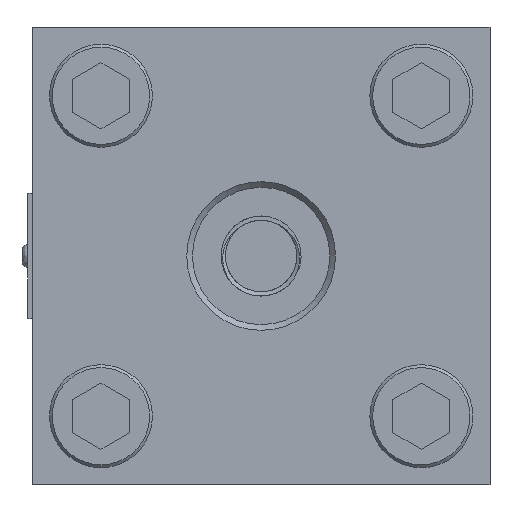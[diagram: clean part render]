
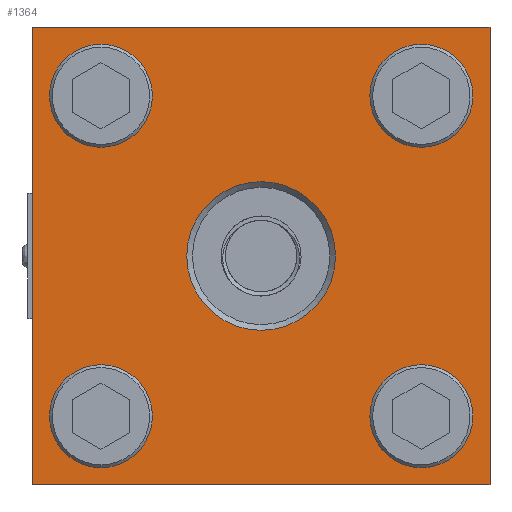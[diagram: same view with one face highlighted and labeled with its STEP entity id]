
A CAD part, left-side view. The second image highlights one B-rep face of the part: STEP entity #1364.
In plain terms, the highlighted planar face has unit normal (-1, 0, 0).
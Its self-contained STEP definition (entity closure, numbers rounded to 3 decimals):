
#643=FACE_BOUND('',#2118,.T.);
#644=FACE_BOUND('',#2119,.T.);
#645=FACE_BOUND('',#2120,.T.);
#646=FACE_BOUND('',#2121,.T.);
#647=FACE_BOUND('',#2122,.T.);
#648=FACE_BOUND('',#2123,.T.);
#1364=ADVANCED_FACE('',(#643,#644,#645,#646,#647,#648),#1669,.F.);
#1669=PLANE('',#5763);
#2118=EDGE_LOOP('',(#3183));
#2119=EDGE_LOOP('',(#3184));
#2120=EDGE_LOOP('',(#3185));
#2121=EDGE_LOOP('',(#3186));
#2122=EDGE_LOOP('',(#3187));
#2123=EDGE_LOOP('',(#3188,#3189,#3190,#3191));
#2687=CIRCLE('',#5758,9.);
#2688=CIRCLE('',#5759,9.);
#2689=CIRCLE('',#5760,9.);
#2690=CIRCLE('',#5761,9.);
#2691=CIRCLE('',#5762,13.);
#3183=ORIENTED_EDGE('',*,*,#4739,.T.);
#3184=ORIENTED_EDGE('',*,*,#4740,.T.);
#3185=ORIENTED_EDGE('',*,*,#4741,.T.);
#3186=ORIENTED_EDGE('',*,*,#4742,.T.);
#3187=ORIENTED_EDGE('',*,*,#4743,.F.);
#3188=ORIENTED_EDGE('',*,*,#4744,.T.);
#3189=ORIENTED_EDGE('',*,*,#4745,.F.);
#3190=ORIENTED_EDGE('',*,*,#4746,.F.);
#3191=ORIENTED_EDGE('',*,*,#4747,.T.);
#4205=VERTEX_POINT('',#20963);
#4206=VERTEX_POINT('',#20965);
#4207=VERTEX_POINT('',#20967);
#4208=VERTEX_POINT('',#20969);
#4209=VERTEX_POINT('',#20971);
#4210=VERTEX_POINT('',#20973);
#4211=VERTEX_POINT('',#20974);
#4212=VERTEX_POINT('',#20976);
#4213=VERTEX_POINT('',#20978);
#4739=EDGE_CURVE('',#4205,#4205,#2687,.T.);
#4740=EDGE_CURVE('',#4206,#4206,#2688,.T.);
#4741=EDGE_CURVE('',#4207,#4207,#2689,.T.);
#4742=EDGE_CURVE('',#4208,#4208,#2690,.T.);
#4743=EDGE_CURVE('',#4209,#4209,#2691,.T.);
#4744=EDGE_CURVE('',#4210,#4211,#5224,.T.);
#4745=EDGE_CURVE('',#4212,#4211,#5225,.T.);
#4746=EDGE_CURVE('',#4213,#4212,#5226,.T.);
#4747=EDGE_CURVE('',#4213,#4210,#5227,.T.);
#5224=LINE('',#20972,#5416);
#5225=LINE('',#20975,#5417);
#5226=LINE('',#20977,#5418);
#5227=LINE('',#20979,#5419);
#5416=VECTOR('',#6626,1.);
#5417=VECTOR('',#6627,1.);
#5418=VECTOR('',#6628,1.);
#5419=VECTOR('',#6629,1.);
#5758=AXIS2_PLACEMENT_3D('',#20962,#6616,#6617);
#5759=AXIS2_PLACEMENT_3D('',#20964,#6618,#6619);
#5760=AXIS2_PLACEMENT_3D('',#20966,#6620,#6621);
#5761=AXIS2_PLACEMENT_3D('',#20968,#6622,#6623);
#5762=AXIS2_PLACEMENT_3D('',#20970,#6624,#6625);
#5763=AXIS2_PLACEMENT_3D('',#20980,#6630,#6631);
#6616=DIRECTION('',(1.,0.,0.));
#6617=DIRECTION('',(0.,0.,-1.));
#6618=DIRECTION('',(1.,0.,0.));
#6619=DIRECTION('',(0.,0.,-1.));
#6620=DIRECTION('',(1.,0.,0.));
#6621=DIRECTION('',(0.,0.,-1.));
#6622=DIRECTION('',(1.,0.,0.));
#6623=DIRECTION('',(0.,0.,-1.));
#6624=DIRECTION('',(-1.,0.,0.));
#6625=DIRECTION('',(0.,0.,1.));
#6626=DIRECTION('',(0.,-1.,0.));
#6627=DIRECTION('',(0.,0.,-1.));
#6628=DIRECTION('',(0.,-1.,0.));
#6629=DIRECTION('',(0.,0.,-1.));
#6630=DIRECTION('',(1.,0.,0.));
#6631=DIRECTION('',(0.,0.,1.));
#20962=CARTESIAN_POINT('',(133.308,136.543,-28.));
#20963=CARTESIAN_POINT('',(133.308,136.543,-37.));
#20964=CARTESIAN_POINT('',(133.308,136.543,28.));
#20965=CARTESIAN_POINT('',(133.308,136.543,19.));
#20966=CARTESIAN_POINT('',(133.308,192.543,-28.));
#20967=CARTESIAN_POINT('',(133.308,192.543,-37.));
#20968=CARTESIAN_POINT('',(133.308,192.543,28.));
#20969=CARTESIAN_POINT('',(133.308,192.543,19.));
#20970=CARTESIAN_POINT('',(133.308,164.543,0.));
#20971=CARTESIAN_POINT('',(133.308,164.543,13.));
#20972=CARTESIAN_POINT('',(133.308,203.543,-40.));
#20973=CARTESIAN_POINT('',(133.308,204.543,-40.));
#20974=CARTESIAN_POINT('',(133.308,124.543,-40.));
#20975=CARTESIAN_POINT('',(133.308,124.543,40.));
#20976=CARTESIAN_POINT('',(133.308,124.543,40.));
#20977=CARTESIAN_POINT('',(133.308,203.543,40.));
#20978=CARTESIAN_POINT('',(133.308,204.543,40.));
#20979=CARTESIAN_POINT('',(133.308,204.543,40.));
#20980=CARTESIAN_POINT('',(133.308,203.543,40.));
